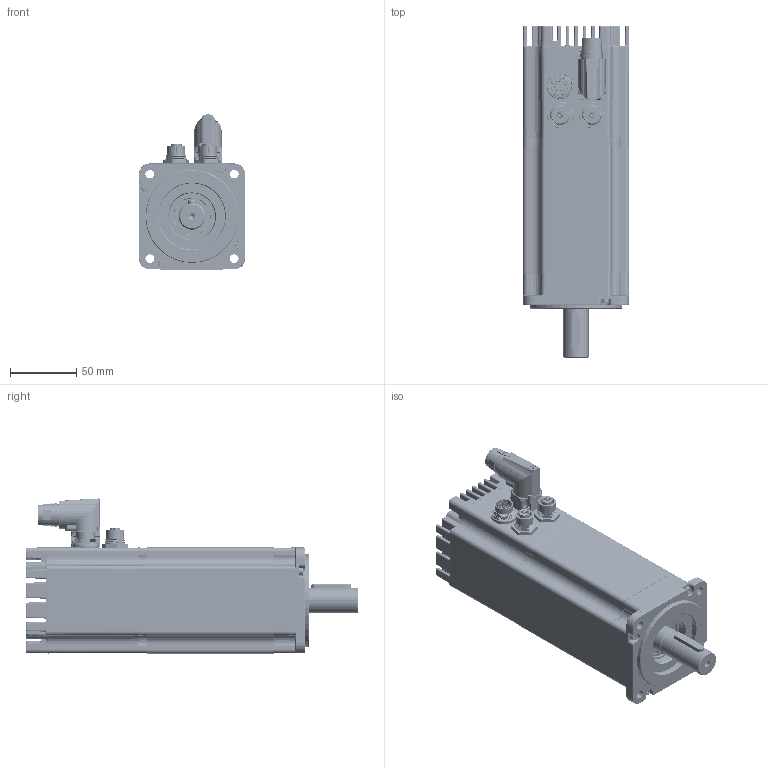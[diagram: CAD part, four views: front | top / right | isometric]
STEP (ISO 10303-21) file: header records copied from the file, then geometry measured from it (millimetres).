
FILE_DESCRIPTION(/* description */ ('Unknown'),/* implementation_level */ '2;1');
FILE_NAME(/* name */ 'q0bh56',/* time_stamp */ '2021-08-02T08:56:26+02:00',/* author */ ('Unknown'),/* organization */ ('Unknown'),/* preprocessor_version */ 'ST-DEVELOPER v16.7',/* originating_system */ 'Solid Edge',/* authorisation */ 'Unknown');
FILE_SCHEMA (('AUTOMOTIVE_DESIGN {1 0 10303 214 3 1 1}'));
Products named in the file (43): duet; 005911000181; 005911000226; 003355001183; 005911000199; 003251021084; 005755000400; 005123000690; 003251021088; 005755000060; 005123000800; 005751000400; 005911000490; 005911000201; 005007000294; 005451001180; 005009000540; 005008000690_oa_0; 005008000690_oa_1; 005008000690_oa_2; 005113000500; 005008000142_oa_3; 003755102060; 005117002489_BEDC 894 053A Senza O-ring; 005117002489_141697; 005117002489_133152; 005911000171; 003108020509; 005117002491_amphenol C091; cavi DUET AD 80; 005117002493_1; 003108020563_rosso; 005117002518_oa_4; 005117002518; 005117002518_dado; 005117002518_oa_5; 003108020563_giallo; 003108020563_nero; 003108020563_bianco; 003175000145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
Assembly tree (63 placements, depth 3):
  duet
    005911000181  x4
    005911000226  x2
    003355001183
    005911000199  x4
    003251021084
    005755000400
    005123000690
    003251021088
    005755000060
    005123000800
    005751000400
    005911000490  x7
    005911000201  x4
    005007000294
    005451001180
    005009000540
    005008000690_oa_0
    005008000690_oa_1
    005008000690_oa_2
    005113000500
    005008000142_oa_3
    003755102060
    005117002489_BEDC 894 053A Senza O-ring
      005117002489_141697
      005117002489_133152
    005911000171  x4
    003108020509
      005117002491_amphenol C091
      cavi DUET AD 80
      005117002493_1
    003108020563_rosso
    005117002518_oa_4
      005117002518
      005117002518_dado
    005117002518_oa_5
      005117002518
      005117002518_dado
    003108020563_giallo
    003108020563_nero
    003108020563_bianco
    003175000145
    005008000690_oa_6
    003151003076
    003003199843
Bounding box: 80.02 x 250 x 116.78 mm (x, y, z)
Volume: 549888.2 mm3; surface area: 285526.9 mm2
Topology: 99 solids, 99 shells, 6036 faces, 14668 edges, 8984 vertices
Faces by surface type: plane 2382, cylinder 1882, bspline 929, torus 472, cone 354, sphere 17
Full cylindrical faces by diameter (mm): 0.217 x2, 0.7 x24, 0.9 x12, 1 x12, 1.024 x8, 1.1 x10, 1.2 x12, 1.3 x8, 1.5 x18, 1.55 x12, 1.65 x1, 1.7 x3, 2 x3, 2.013 x4, 2.459 x23, 2.5 x8, 2.6 x2, 2.7 x4, 2.8 x16, 2.9 x1, 3 x22, 3.2 x2, 3.5 x12, 3.9 x3, 4 x2, 4.5 x1, 4.7 x4, 4.8 x1, 4.917 x1, 5 x1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
Entity records: 214802 total; most frequent: CARTESIAN_POINT 63531, ORIENTED_EDGE 24562, DIRECTION 23761, EDGE_CURVE 12281, AXIS2_PLACEMENT_3D 8927, VERTEX_POINT 7835, FACE_BOUND 6488, EDGE_LOOP 6440
